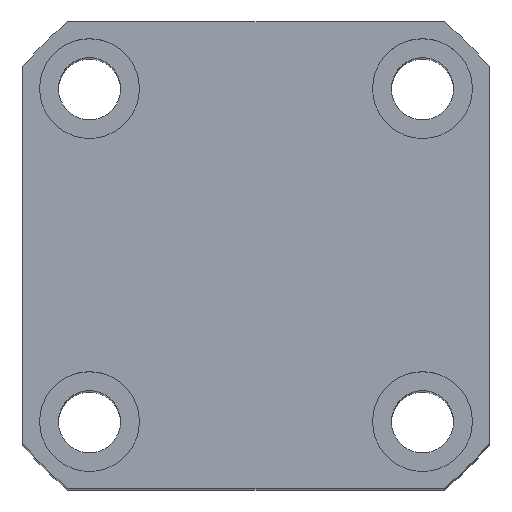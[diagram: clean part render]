
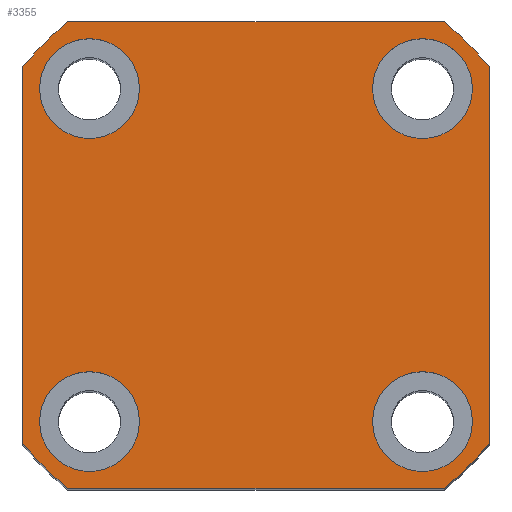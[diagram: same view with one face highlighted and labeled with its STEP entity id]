
A CAD part, top view. The second image highlights one B-rep face of the part: STEP entity #3355.
In plain terms, the highlighted planar face has unit normal (0, 0, 1).
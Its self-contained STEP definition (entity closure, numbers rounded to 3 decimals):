
#3355=ADVANCED_FACE('',(#4095,#4096,#4097,#4098,#4099),#3776,.T.);
#3776=PLANE('',#11041);
#4095=FACE_BOUND('',#4301,.T.);
#4096=FACE_BOUND('',#4302,.T.);
#4097=FACE_BOUND('',#4303,.T.);
#4098=FACE_BOUND('',#4304,.T.);
#4099=FACE_BOUND('',#4305,.T.);
#4301=EDGE_LOOP('',(#6528));
#4302=EDGE_LOOP('',(#6529));
#4303=EDGE_LOOP('',(#6530));
#4304=EDGE_LOOP('',(#6531));
#4305=EDGE_LOOP('',(#6532,#6533,#6534,#6535,#6536,#6537,#6538,#6539));
#4812=LINE('',#13157,#5571);
#4817=LINE('',#13799,#5576);
#4821=LINE('',#13808,#5580);
#4825=LINE('',#13817,#5584);
#5571=VECTOR('',#11422,1.);
#5576=VECTOR('',#11549,1.);
#5580=VECTOR('',#11555,1.);
#5584=VECTOR('',#11561,1.);
#6528=ORIENTED_EDGE('',*,*,#9707,.F.);
#6529=ORIENTED_EDGE('',*,*,#9709,.F.);
#6530=ORIENTED_EDGE('',*,*,#9711,.F.);
#6531=ORIENTED_EDGE('',*,*,#9713,.F.);
#6532=ORIENTED_EDGE('',*,*,#9766,.T.);
#6533=ORIENTED_EDGE('',*,*,#9777,.T.);
#6534=ORIENTED_EDGE('',*,*,#9770,.T.);
#6535=ORIENTED_EDGE('',*,*,#9778,.T.);
#6536=ORIENTED_EDGE('',*,*,#9681,.T.);
#6537=ORIENTED_EDGE('',*,*,#9779,.T.);
#6538=ORIENTED_EDGE('',*,*,#9774,.T.);
#6539=ORIENTED_EDGE('',*,*,#9780,.T.);
#8818=VERTEX_POINT('',#13155);
#8820=VERTEX_POINT('',#13158);
#8844=VERTEX_POINT('',#13341);
#8846=VERTEX_POINT('',#13346);
#8848=VERTEX_POINT('',#13351);
#8850=VERTEX_POINT('',#13356);
#8902=VERTEX_POINT('',#13797);
#8904=VERTEX_POINT('',#13800);
#8906=VERTEX_POINT('',#13806);
#8908=VERTEX_POINT('',#13809);
#8910=VERTEX_POINT('',#13815);
#8912=VERTEX_POINT('',#13818);
#9681=EDGE_CURVE('',#8820,#8818,#4812,.T.);
#9707=EDGE_CURVE('',#8844,#8844,#10893,.T.);
#9709=EDGE_CURVE('',#8846,#8846,#10895,.T.);
#9711=EDGE_CURVE('',#8848,#8848,#10897,.T.);
#9713=EDGE_CURVE('',#8850,#8850,#10899,.T.);
#9766=EDGE_CURVE('',#8904,#8902,#4817,.T.);
#9770=EDGE_CURVE('',#8908,#8906,#4821,.T.);
#9774=EDGE_CURVE('',#8912,#8910,#4825,.T.);
#9777=EDGE_CURVE('',#8902,#8908,#10911,.T.);
#9778=EDGE_CURVE('',#8906,#8820,#10912,.T.);
#9779=EDGE_CURVE('',#8818,#8912,#10913,.T.);
#9780=EDGE_CURVE('',#8910,#8904,#10914,.T.);
#10893=CIRCLE('',#11007,4.5);
#10895=CIRCLE('',#11010,4.5);
#10897=CIRCLE('',#11013,4.5);
#10899=CIRCLE('',#11016,4.5);
#10911=CIRCLE('',#11037,27.);
#10912=CIRCLE('',#11038,27.);
#10913=CIRCLE('',#11039,27.);
#10914=CIRCLE('',#11040,27.);
#11007=AXIS2_PLACEMENT_3D('',#13340,#11493,#11494);
#11010=AXIS2_PLACEMENT_3D('',#13345,#11499,#11500);
#11013=AXIS2_PLACEMENT_3D('',#13350,#11505,#11506);
#11016=AXIS2_PLACEMENT_3D('',#13355,#11511,#11512);
#11037=AXIS2_PLACEMENT_3D('',#13823,#11566,#11567);
#11038=AXIS2_PLACEMENT_3D('',#13824,#11568,#11569);
#11039=AXIS2_PLACEMENT_3D('',#13825,#11570,#11571);
#11040=AXIS2_PLACEMENT_3D('',#13826,#11572,#11573);
#11041=AXIS2_PLACEMENT_3D('',#13827,#11574,#11575);
#11422=DIRECTION('',(0.,-1.,0.));
#11493=DIRECTION('',(0.,0.,1.));
#11494=DIRECTION('',(1.,0.,0.));
#11499=DIRECTION('',(0.,0.,1.));
#11500=DIRECTION('',(1.,0.,0.));
#11505=DIRECTION('',(0.,0.,1.));
#11506=DIRECTION('',(1.,0.,0.));
#11511=DIRECTION('',(0.,0.,1.));
#11512=DIRECTION('',(1.,0.,0.));
#11549=DIRECTION('',(0.,1.,0.));
#11555=DIRECTION('',(-1.,0.,0.));
#11561=DIRECTION('',(1.,0.,0.));
#11566=DIRECTION('',(0.,0.,1.));
#11567=DIRECTION('',(1.,0.,0.));
#11568=DIRECTION('',(0.,0.,1.));
#11569=DIRECTION('',(1.,0.,0.));
#11570=DIRECTION('',(0.,0.,1.));
#11571=DIRECTION('',(1.,0.,0.));
#11572=DIRECTION('',(0.,0.,1.));
#11573=DIRECTION('',(1.,0.,0.));
#11574=DIRECTION('',(0.,0.,1.));
#11575=DIRECTION('',(-1.,0.,0.));
#13155=CARTESIAN_POINT('',(-64.668,-14.288,67.993));
#13157=CARTESIAN_POINT('',(-64.668,23.682,67.993));
#13158=CARTESIAN_POINT('',(-64.668,19.653,67.993));
#13340=CARTESIAN_POINT('',(-58.668,17.684,67.993));
#13341=CARTESIAN_POINT('',(-54.168,17.684,67.993));
#13345=CARTESIAN_POINT('',(-58.668,-12.316,67.993));
#13346=CARTESIAN_POINT('',(-54.168,-12.316,67.993));
#13350=CARTESIAN_POINT('',(-28.668,-12.316,67.993));
#13351=CARTESIAN_POINT('',(-24.168,-12.316,67.993));
#13355=CARTESIAN_POINT('',(-28.668,17.682,67.993));
#13356=CARTESIAN_POINT('',(-24.168,17.682,67.993));
#13797=CARTESIAN_POINT('',(-22.668,19.653,67.993));
#13799=CARTESIAN_POINT('',(-22.668,23.682,67.993));
#13800=CARTESIAN_POINT('',(-22.668,-14.288,67.993));
#13806=CARTESIAN_POINT('',(-60.639,23.682,67.993));
#13808=CARTESIAN_POINT('',(-64.668,23.682,67.993));
#13809=CARTESIAN_POINT('',(-26.698,23.682,67.993));
#13815=CARTESIAN_POINT('',(-26.698,-18.318,67.993));
#13817=CARTESIAN_POINT('',(-64.668,-18.318,67.993));
#13818=CARTESIAN_POINT('',(-60.639,-18.318,67.993));
#13823=CARTESIAN_POINT('',(-43.668,2.682,67.993));
#13824=CARTESIAN_POINT('',(-43.668,2.682,67.993));
#13825=CARTESIAN_POINT('',(-43.668,2.682,67.993));
#13826=CARTESIAN_POINT('',(-43.668,2.682,67.993));
#13827=CARTESIAN_POINT('',(-43.668,2.682,67.993));
